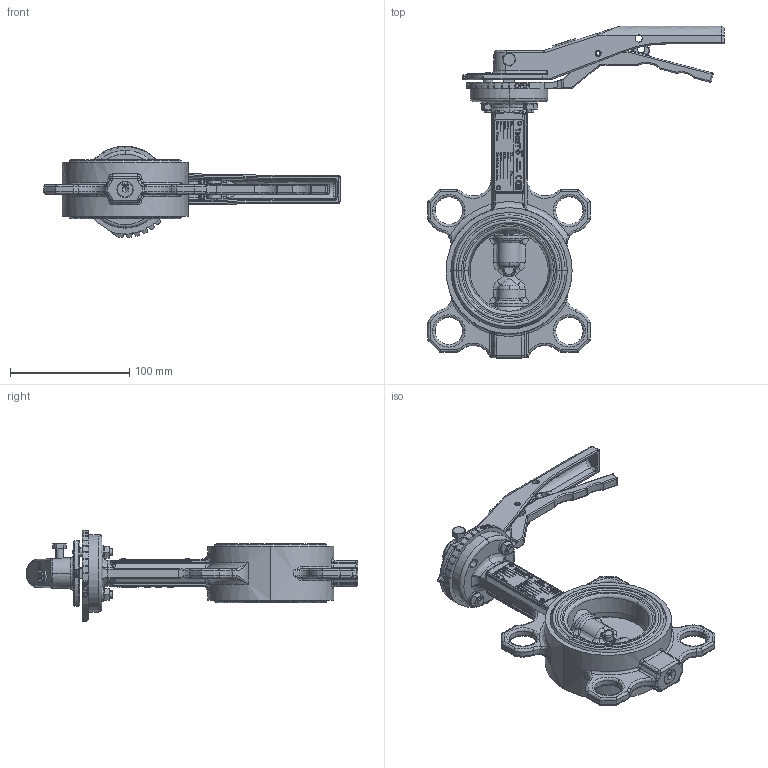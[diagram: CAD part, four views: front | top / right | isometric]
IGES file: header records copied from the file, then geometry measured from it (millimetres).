
Start section: SolidWorks IGES file using NURBS representation for surfaces
Global section: file name: H:\BE BIBLIOTHEQUE 3D\VPN-02 HANDLE (DN40 à 300)\VPN-02 DN65\VPN-02 DN65.IGS; native system: SolidWorks 2011; preprocessor: SolidWorks 2011; author: a.cartier; date: 140716.105425; units: millimetre
Bounding box: 248 x 277.9 x 76.45 mm (x, y, z)
Volume: 489185.5 mm3; surface area: 179332.8 mm2
Topology: 27 solids, 27 shells, 4207 faces, 10510 edges, 6667 vertices
Faces by surface type: bspline 4207
